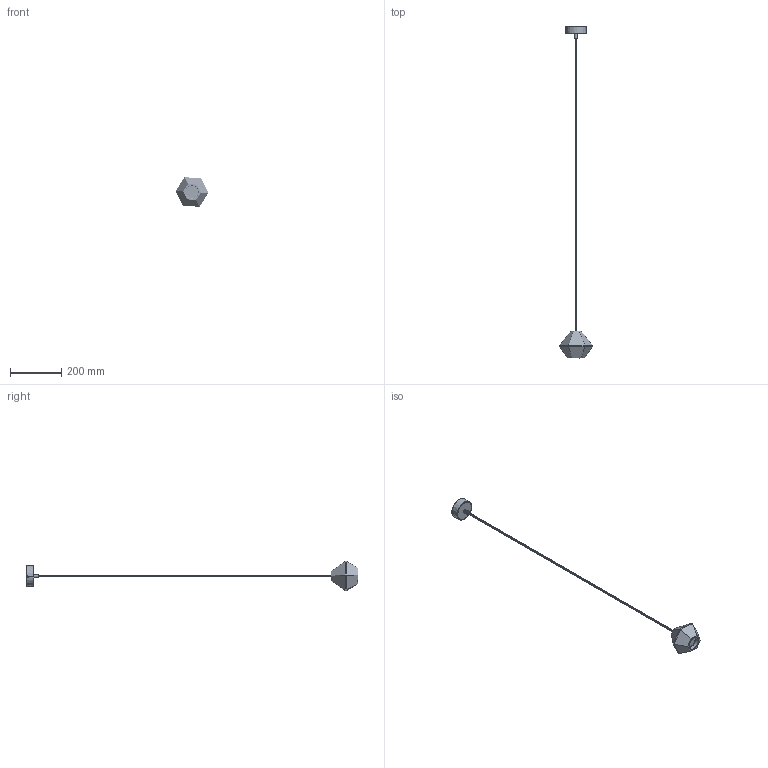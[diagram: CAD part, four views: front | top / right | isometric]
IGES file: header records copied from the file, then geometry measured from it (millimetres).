
Start section: SolidWorks IGES file using analytic representation for surfaces
Global section: file name: E:\3D lampy\Geometric\Geometric_9697.IGS; native system: SolidWorks 2016; preprocessor: SolidWorks 2016; author: Asia; date: 170428.113131; units: millimetre
Bounding box: 129.07 x 1299.89 x 115.51 mm (x, y, z)
Surface area: 131436 mm2 (no closed solid volume)
Topology: 0 solids, 0 shells, 660 faces, 9304 edges, 9286 vertices
Faces by surface type: bspline 375, revolution 285
